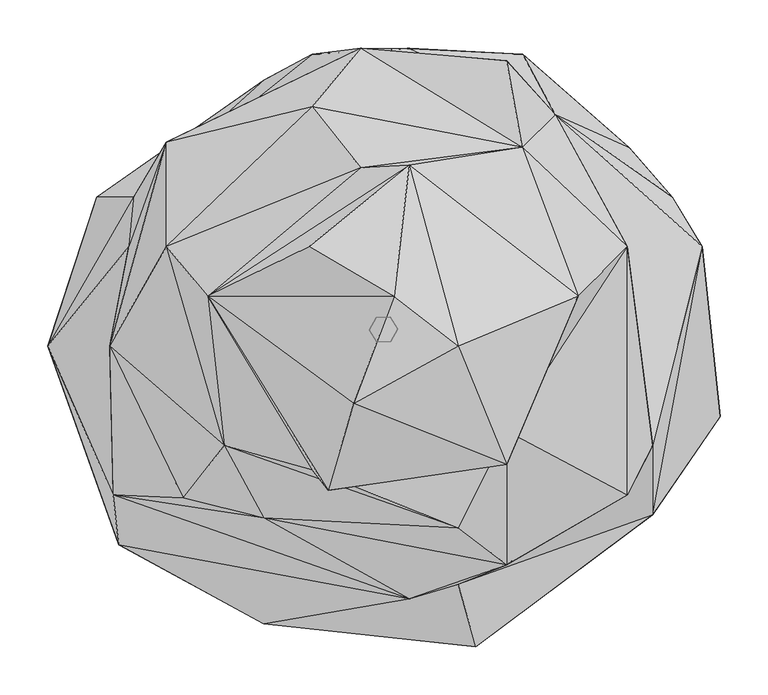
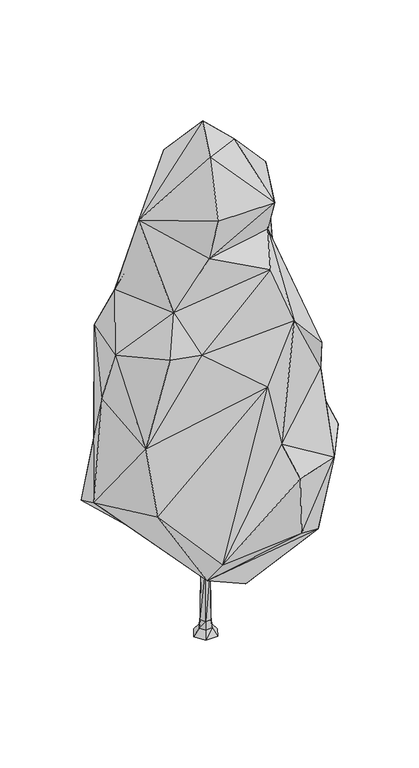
"""IFC4 building model written with IfcOpenShell, lengths in millimetres: geographic element geometry, Enscape AssetDefinition - Coniferous Tree 015 Spruce : Enscape AssetDefinition - Coniferous Tree 015 Spruce 3."""

from ifc_helpers import new_model, si_unit, origin, place, context, project, spatial, triangles, source, transform, mapped, element, save


def geographic_element_6690d7ba(model_context):
    return source(origin(), model_context, "Body", "Tessellation", [
        triangles([(255.1007625, -173.2693294, 928.1414577), (129.130799, -106.6977932, 1295.9934231), (129.130799, -246.1359209, 1085.7923), (78.4284341, -266.5362564, 717.9404074), (78.4284341, -207.3836896, 1243.4431423), (281.2378299, -121.4285801, 804.4426855), (254.9328222, 85.9346256, 1085.7923), (129.130799, -141.6344598, 1401.0939846), (145.2504001, 189.616224, 1138.3426535), (203.8064371, 34.0938742, 1401.0939846), (-57.1872343, -168.4133031, 1422.9677948), (78.4284341, -17.7469761, 1550.1388115), (-30.1297879, -77.8140185, 1564.8316647), (11.8364982, 33.7967221, 1600.0000122), (-182.9143438, 34.0938742, 1348.5437038), (-73.6785787, -147.2946975, 1295.9934231), (-165.6867798, -121.4285801, 1138.3426535), (-208.1166209, -176.4441356, 1033.594178), (27.7260602, -281.8678605, 928.1414577), (-124.3809526, -197.0682219, 1033.2420193), (-284.9693427, -17.7469761, 980.6917385), (-281.4397798, -173.2693294, 770.4906155), (-264.998941, 85.9346256, 770.4906155), (-275.4302811, -225.1101694, 581.8039132), (96.9556372, -331.6973044, 640.5898235), (-124.3809526, -307.8587159, 424.1531799), (129.130799, -284.7535129, 424.1531799), (-175.0832266, 85.9346256, 323.7229002), (-124.3809526, -225.1101694, 324.3705714), (11.6322126, -193.4897884, 247.9121206), (243.0607452, -173.2693294, 331.1463206), (301.8602448, 137.7754657, 612.8397005), (351.6945577, -91.3660074, 582.1758745), (281.2378299, -193.7255299, 560.2894561), (332.9986058, 85.9346256, 717.9404074), (27.7260602, 293.2979041, 420.1916848), (78.4284341, 241.4570641, 338.7820101), (145.7850604, 286.9634979, 599.7055095), (159.4092197, -24.6131166, 232.1455321), (256.7398158, 189.616224, 424.1531799), (-73.6785787, 287.1072936, 665.3899813), (27.7260602, 292.7739535, 717.9404074), (179.8330639, 223.979479, 875.591177), (-22.9762093, 293.2979041, 894.6802008), (129.130799, 279.7881909, 1033.2420193), (-73.6785787, 231.8444967, 1085.7923), (-22.9762093, 168.2533201, 1295.9934231), (-225.7855824, 195.1956618, 928.1414577), (-124.3809526, 259.6789714, 476.7034244), (-259.9034672, 137.7754657, 612.8397005), (-225.7855824, 85.9346256, 1108.7403906), (27.7260602, 170.719703, 1401.0939846), (-76.9389811, 85.9346256, 1506.1945461), (-349.3677375, -17.7469761, 529.2536688), (-298.5764155, 137.7754657, 424.1531799), (10.6593569, -17.0663161, -0.7106755), (36.8396277, 0.0764491, -22.3421796), (8.3411129, 13.6025979, 24.113524), (20.1942207, 9.71e-05, -0.7106755), (19.0481639, -31.4434091, -22.3421796), (-8.8880096, -17.3419999, -0.7106755), (-17.1445147, -31.7955452, -22.3421796), (8.8186523, -13.8781841, 24.113524), (16.5129104, 9.71e-05, 24.113524), (15.2699073, 0.243724, 194.0981634), (8.5641461, 10.744257, 351.7760571), (14.149108, -1.6222364, 351.7760571), (7.5085261, 12.6479062, 194.0981634), (-4.9380105, 12.0908102, 351.7760571), (-13.9761012, -0.7950902, 194.0981634), (-7.1144294, 12.1285009, 194.0981634), (-7.5249421, 13.3268176, 24.113524), (-12.8553007, 1.0708703, 351.7760571), (10.1818163, 16.7907311, -0.7106755), (-15.2191031, -0.5513661, 24.113524), (-6.2148176, -13.1992727, 194.0981634), (-7.2703394, -11.2956223, 351.7760571), (-18.9004157, -0.5513661, -0.7106755), (-7.0473061, -14.1538667, 24.113524), (-9.3655501, 16.5149485, -0.7106755), (18.4383197, 31.2441776, -22.3421796), (-17.7544554, 30.8920438, -22.3421796), (-35.5458227, -0.6278153, -22.3421796), (8.4082361, -12.6798663, 194.0981634), (6.2318167, -12.6421766, 351.7760571)], [[62, 61, 83], [85, 77, 76], [67, 85, 84], [76, 84, 85], [84, 76, 79], [61, 78, 83], [78, 61, 79], [83, 78, 82], [81, 74, 57], [78, 80, 82], [80, 74, 81], [82, 80, 81], [79, 75, 78], [75, 79, 76], [80, 78, 75], [77, 73, 70], [76, 70, 75], [70, 76, 77], [75, 72, 80], [72, 75, 70], [74, 80, 72], [72, 58, 74], [73, 69, 71], [70, 71, 72], [71, 70, 73], [58, 72, 71], [69, 66, 68], [71, 68, 58], [68, 71, 69], [66, 67, 65], [84, 65, 67], [65, 68, 66], [65, 84, 63], [63, 79, 61], [79, 63, 84], [68, 65, 64], [63, 64, 65], [64, 58, 68], [56, 61, 62], [64, 63, 56], [60, 56, 62], [61, 56, 63], [59, 56, 60], [74, 59, 57], [58, 64, 59], [57, 59, 60], [56, 59, 64], [59, 74, 58], [55, 49, 28], [54, 55, 28], [14, 53, 15], [53, 52, 15], [14, 52, 53], [15, 47, 51], [15, 52, 47], [51, 47, 46], [51, 46, 48], [23, 50, 54], [48, 50, 23], [55, 54, 50], [50, 49, 55], [50, 41, 49], [48, 44, 50], [44, 41, 50], [48, 46, 44], [47, 9, 46], [9, 45, 44], [47, 52, 9], [46, 9, 44], [44, 45, 43], [9, 43, 45], [44, 42, 41], [44, 43, 42], [42, 43, 38], [41, 42, 36], [41, 36, 49], [28, 49, 36], [42, 38, 36], [36, 37, 28], [28, 37, 39], [39, 37, 40], [38, 43, 40], [36, 40, 37], [40, 36, 38], [43, 35, 32], [43, 32, 40], [33, 32, 35], [35, 34, 33], [31, 32, 33], [33, 34, 31], [31, 39, 40], [32, 31, 40], [30, 28, 39], [31, 30, 39], [30, 31, 29], [29, 28, 30], [54, 28, 29], [34, 27, 31], [27, 29, 31], [34, 25, 27], [34, 4, 25], [26, 27, 25], [27, 26, 29], [4, 26, 25], [26, 24, 29], [24, 54, 29], [19, 26, 4], [19, 24, 26], [19, 22, 24], [22, 54, 24], [22, 23, 54], [21, 48, 23], [51, 48, 21], [21, 23, 22], [18, 21, 22], [22, 20, 18], [19, 20, 22], [18, 20, 17], [17, 15, 51], [17, 21, 18], [17, 51, 21], [5, 17, 20], [5, 16, 17], [16, 15, 17], [2, 16, 5], [16, 11, 15], [11, 13, 15], [13, 14, 15], [14, 12, 52], [12, 14, 13], [8, 13, 11], [8, 12, 13], [8, 16, 2], [8, 11, 16], [10, 8, 2], [52, 12, 10], [52, 10, 9], [8, 10, 12], [9, 10, 7], [10, 2, 7], [9, 7, 43], [43, 6, 35], [35, 6, 34], [43, 7, 6], [6, 4, 34], [7, 1, 6], [2, 1, 7], [3, 19, 4], [3, 20, 19], [1, 3, 6], [2, 5, 3], [3, 4, 6], [3, 5, 20], [3, 1, 2]], closed=False),
    ])


if __name__ == "__main__":
    model = new_model("IFC4")
    model_context = context("Model", 3, world=origin())
    ifc_project = project(units=[si_unit("LENGTHUNIT", "METRE", prefix="MILLI")], contexts=[model_context])
    site = spatial("IfcSite", under=ifc_project)
    building = spatial("IfcBuilding", under=site)
    placement = place(None, origin())
    geographic_element_shape = geographic_element_6690d7ba(model_context)
    element("IfcGeographicElement", 1, ObjectType="Enscape AssetDefinition - Coniferous Tree 015 Spruce : Enscape AssetDefinition - Coniferous Tree 015 Spruce 3", at=placement, inside=building, context=model_context, shape_type="MappedRepresentation", body=[
        mapped(geographic_element_shape, transform((0.0, 0.0, 0.0), x_axis=(1.0, 0.0, 0.0), y_axis=(0.0, 1.0, 0.0), z_axis=(0.0, 0.0, 1.0))),
    ])
    save(model, "model.ifc")
